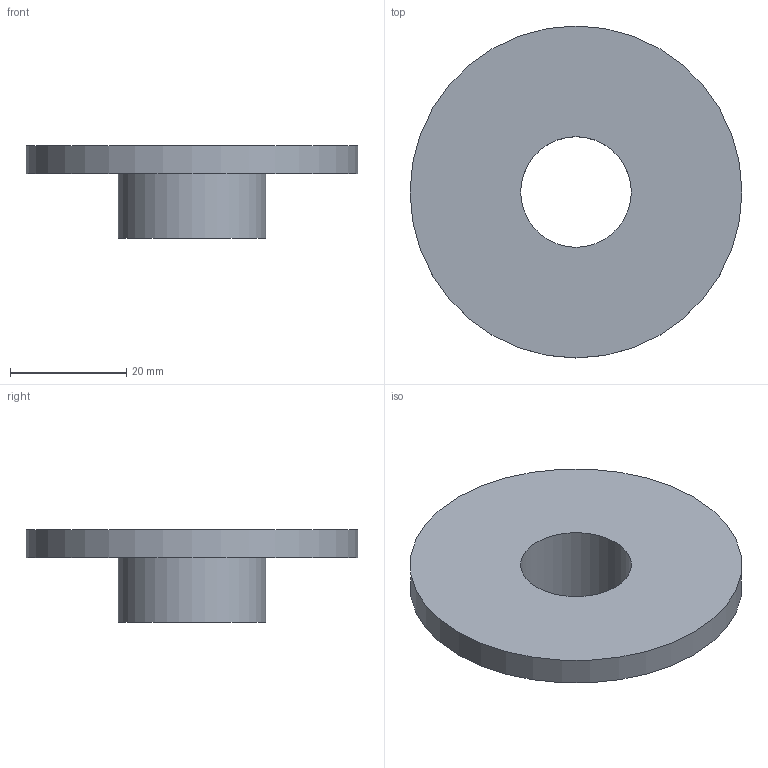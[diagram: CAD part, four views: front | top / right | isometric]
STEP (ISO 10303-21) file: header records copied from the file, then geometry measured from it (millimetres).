
FILE_DESCRIPTION((''),'2;1');
FILE_NAME('C:\REVIT SHARED FILES\STP\HG\HG-75.stp','2013-09-06T14:48:01',('rramoutar'),(''),'Autodesk Inventor 2012','Autodesk Inventor 2012','');
FILE_SCHEMA(('AUTOMOTIVE_DESIGN { 1 0 10303 214 1 1 1 1 }'));
Length unit declared in the file: inch
Products named in the file (1): HG-75
Bounding box: 57.15 x 57.15 x 15.88 mm (x, y, z)
Volume: 13322.8 mm3; surface area: 7252.3 mm2
Topology: 1 solids, 1 shells, 6 faces, 9 edges, 6 vertices
Faces by surface type: plane 3, cylinder 3
Full cylindrical faces by diameter (mm): 19.05 x1, 25.4 x1, 57.15 x1
Entity records: 156 total; most frequent: DIRECTION 26, CARTESIAN_POINT 19, AXIS2_PLACEMENT_3D 13, ORIENTED_EDGE 12, EDGE_LOOP 12, VERTEX_POINT 6, CIRCLE 6, EDGE_CURVE 6
